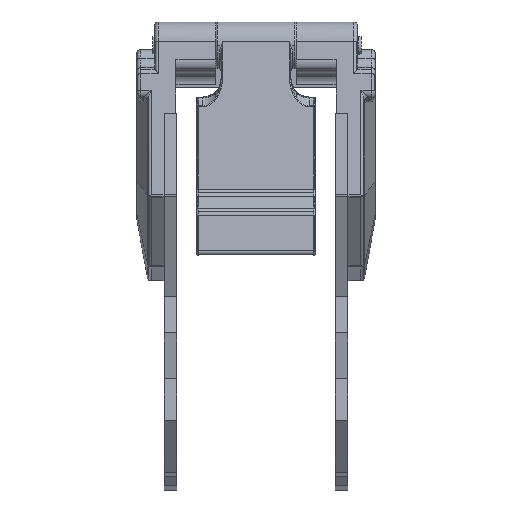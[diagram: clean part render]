
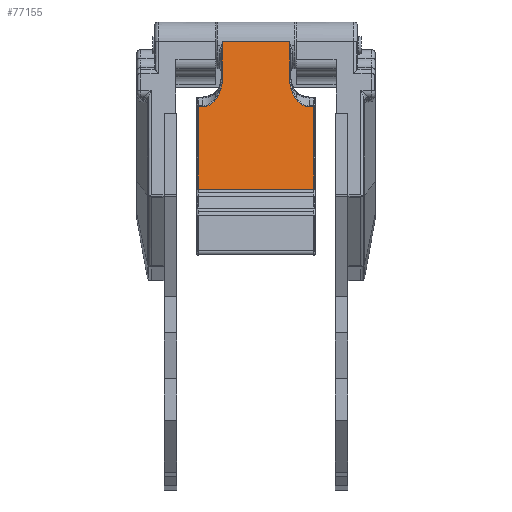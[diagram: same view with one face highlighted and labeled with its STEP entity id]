
A CAD part, front view. The second image highlights one B-rep face of the part: STEP entity #77155.
In plain terms, the highlighted planar face has unit normal (0, -0.987, 0.162).
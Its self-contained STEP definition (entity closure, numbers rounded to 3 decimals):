
#489 = CARTESIAN_POINT ( 'NONE',  ( -4.5, -34.516, 1.604 ) ) ;
#510 = DIRECTION ( 'NONE',  ( 1., 0., 0. ) ) ;
#675 = EDGE_LOOP ( 'NONE', ( #2841, #77125, #70111, #57606, #24850, #46229, #59086, #91514, #60438, #58242, #31376, #35807, #29028, #25186 ) ) ;
#2841 = ORIENTED_EDGE ( 'NONE', *, *, #21607, .F. ) ;
#3638 = VERTEX_POINT ( 'NONE', #64254 ) ;
#3716 = CARTESIAN_POINT ( 'NONE',  ( -7.75, -35.527, -4.549 ) ) ;
#4055 = VECTOR ( 'NONE', #37148, 1000. ) ;
#4266 =( BOUNDED_CURVE ( )  B_SPLINE_CURVE ( 3, ( #89128, #82838, #16637, #46125 ),
 .UNSPECIFIED., .F., .F. ) 
 B_SPLINE_CURVE_WITH_KNOTS ( ( 4, 4 ),
 ( 5.118, 6.283 ),
 .UNSPECIFIED. ) 
 CURVE ( )  GEOMETRIC_REPRESENTATION_ITEM ( )  RATIONAL_B_SPLINE_CURVE ( ( 1., 0.89, 0.89, 1. ) ) 
 REPRESENTATION_ITEM ( '' )  );
#6731 = CARTESIAN_POINT ( 'NONE',  ( -7.75, -37.343, -15.603 ) ) ;
#7438 = CARTESIAN_POINT ( 'NONE',  ( -4.5, -34.09, 4.194 ) ) ;
#7601 = LINE ( 'NONE', #36180, #4055 ) ;
#7674 = CARTESIAN_POINT ( 'NONE',  ( 7.75, -37.343, -15.603 ) ) ;
#8142 = CARTESIAN_POINT ( 'NONE',  ( -4.561, -35.042, -1.599 ) ) ;
#9812 = EDGE_CURVE ( 'NONE', #79085, #90151, #95703, .T. ) ;
#10990 = EDGE_CURVE ( 'NONE', #3638, #60754, #43027, .T. ) ;
#11374 = CARTESIAN_POINT ( 'NONE',  ( 5.158, -35.381, -3.663 ) ) ;
#12085 = CARTESIAN_POINT ( 'NONE',  ( -4.719, -35.138, -2.183 ) ) ;
#13073 = CARTESIAN_POINT ( 'NONE',  ( -4.5, -34.923, -0.874 ) ) ;
#14164 = EDGE_CURVE ( 'NONE', #90257, #23251, #57444, .T. ) ;
#14585 = CARTESIAN_POINT ( 'NONE',  ( 0., -34.09, 4.194 ) ) ;
#15996 = CARTESIAN_POINT ( 'NONE',  ( -4.526, -34.993, -1.299 ) ) ;
#16466 = CARTESIAN_POINT ( 'NONE',  ( 0., -37.343, -15.603 ) ) ;
#16637 = CARTESIAN_POINT ( 'NONE',  ( -6.087, -35.527, -4.549 ) ) ;
#16746 = VECTOR ( 'NONE', #37256, 1000. ) ;
#20127 = CARTESIAN_POINT ( 'NONE',  ( 4.719, -35.138, -2.183 ) ) ;
#20387 = CARTESIAN_POINT ( 'NONE',  ( 4.509, -34.969, -1.158 ) ) ;
#20861 = CARTESIAN_POINT ( 'NONE',  ( 4.526, -34.993, -1.299 ) ) ;
#21022 = EDGE_CURVE ( 'NONE', #23251, #58720, #51689, .T. ) ;
#21607 = EDGE_CURVE ( 'NONE', #87282, #79085, #61106, .T. ) ;
#21833 = CARTESIAN_POINT ( 'NONE',  ( 4.719, -35.138, -2.183 ) ) ;
#21970 = CARTESIAN_POINT ( 'NONE',  ( -4.5, -34.923, -0.874 ) ) ;
#22365 = LINE ( 'NONE', #489, #52923 ) ;
#23251 = VERTEX_POINT ( 'NONE', #94585 ) ;
#24456 = CARTESIAN_POINT ( 'NONE',  ( 7.75, -35.527, -4.549 ) ) ;
#24850 = ORIENTED_EDGE ( 'NONE', *, *, #63035, .F. ) ;
#25186 = ORIENTED_EDGE ( 'NONE', *, *, #9812, .F. ) ;
#25503 = VECTOR ( 'NONE', #38313, 1000. ) ;
#25605 = EDGE_CURVE ( 'NONE', #60754, #50754, #4266, .T. ) ;
#28287 = EDGE_CURVE ( 'NONE', #42604, #58660, #22365, .T. ) ;
#29022 = B_SPLINE_CURVE_WITH_KNOTS ( 'NONE', 3,
 ( #77402, #64305, #20387, #78354 ),
 .UNSPECIFIED., .F., .F.,
 ( 4, 4 ),
 ( 0., 0.043 ),
 .UNSPECIFIED. ) ;
#29028 = ORIENTED_EDGE ( 'NONE', *, *, #53734, .T. ) ;
#31376 = ORIENTED_EDGE ( 'NONE', *, *, #25605, .T. ) ;
#35807 = ORIENTED_EDGE ( 'NONE', *, *, #64120, .T. ) ;
#36180 = CARTESIAN_POINT ( 'NONE',  ( 0., -35.527, -4.549 ) ) ;
#36670 = VECTOR ( 'NONE', #510, 1000. ) ;
#37148 = DIRECTION ( 'NONE',  ( -1., 0., 0. ) ) ;
#37256 = DIRECTION ( 'NONE',  ( -1., 0., 0. ) ) ;
#38004 = AXIS2_PLACEMENT_3D ( 'NONE', #14585, #44117, #49401 ) ;
#38313 = DIRECTION ( 'NONE',  ( 0., -0.162, -0.987 ) ) ;
#40277 = CARTESIAN_POINT ( 'NONE',  ( -7.2, -35.527, -4.549 ) ) ;
#40511 = B_SPLINE_CURVE_WITH_KNOTS ( 'NONE', 3,
 ( #13073, #53137, #91702, #15996 ),
 .UNSPECIFIED., .F., .F.,
 ( 4, 4 ),
 ( 0., 0.043 ),
 .UNSPECIFIED. ) ;
#40923 = CARTESIAN_POINT ( 'NONE',  ( 6.087, -35.527, -4.549 ) ) ;
#42126 = CARTESIAN_POINT ( 'NONE',  ( 4.633, -35.09, -1.893 ) ) ;
#42604 = VERTEX_POINT ( 'NONE', #7438 ) ;
#43027 = B_SPLINE_CURVE_WITH_KNOTS ( 'NONE', 3,
 ( #74376, #8142, #95189, #73416 ),
 .UNSPECIFIED., .F., .F.,
 ( 4, 4 ),
 ( 0., 0.092 ),
 .UNSPECIFIED. ) ;
#44117 = DIRECTION ( 'NONE',  ( 0., -0.987, 0.162 ) ) ;
#45107 = CARTESIAN_POINT ( 'NONE',  ( 4.5, -34.516, 1.604 ) ) ;
#45342 = EDGE_CURVE ( 'NONE', #42604, #88972, #56169, .T. ) ;
#45519 = DIRECTION ( 'NONE',  ( 0., -0.162, -0.987 ) ) ;
#46125 = CARTESIAN_POINT ( 'NONE',  ( -7.2, -35.527, -4.549 ) ) ;
#46229 = ORIENTED_EDGE ( 'NONE', *, *, #61641, .F. ) ;
#46812 = CARTESIAN_POINT ( 'NONE',  ( -7.75, -35.599, -4.988 ) ) ;
#46869 = VECTOR ( 'NONE', #76250, 1000. ) ;
#47289 = LINE ( 'NONE', #46812, #46869 ) ;
#49401 = DIRECTION ( 'NONE',  ( -1., 0., 0. ) ) ;
#50522 = CARTESIAN_POINT ( 'NONE',  ( 4.5, -34.09, 4.194 ) ) ;
#50754 = VERTEX_POINT ( 'NONE', #40277 ) ;
#51689 =( BOUNDED_CURVE ( )  B_SPLINE_CURVE ( 3, ( #20127, #11374, #40923, #93075 ),
 .UNSPECIFIED., .F., .T. ) 
 B_SPLINE_CURVE_WITH_KNOTS ( ( 4, 4 ),
 ( 5.118, 6.283 ),
 .UNSPECIFIED. ) 
 CURVE ( )  GEOMETRIC_REPRESENTATION_ITEM ( )  RATIONAL_B_SPLINE_CURVE ( ( 1., 0.89, 0.89, 1. ) ) 
 REPRESENTATION_ITEM ( '' )  );
#51706 = CARTESIAN_POINT ( 'NONE',  ( 4.526, -34.993, -1.299 ) ) ;
#52923 = VECTOR ( 'NONE', #45519, 1000. ) ;
#53137 = CARTESIAN_POINT ( 'NONE',  ( -4.5, -34.946, -1.016 ) ) ;
#53734 = EDGE_CURVE ( 'NONE', #76527, #90151, #47289, .T. ) ;
#53938 = DIRECTION ( 'NONE',  ( 0., -0.162, -0.987 ) ) ;
#54201 = CARTESIAN_POINT ( 'NONE',  ( 7.2, -35.527, -4.549 ) ) ;
#55844 = VECTOR ( 'NONE', #95657, 1000. ) ;
#56169 = LINE ( 'NONE', #88035, #36670 ) ;
#57444 = B_SPLINE_CURVE_WITH_KNOTS ( 'NONE', 3,
 ( #20861, #72954, #42126, #21833 ),
 .UNSPECIFIED., .F., .F.,
 ( 4, 4 ),
 ( 0., 0.092 ),
 .UNSPECIFIED. ) ;
#57606 = ORIENTED_EDGE ( 'NONE', *, *, #14164, .F. ) ;
#58242 = ORIENTED_EDGE ( 'NONE', *, *, #10990, .T. ) ;
#58660 = VERTEX_POINT ( 'NONE', #21970 ) ;
#58720 = VERTEX_POINT ( 'NONE', #54201 ) ;
#59086 = ORIENTED_EDGE ( 'NONE', *, *, #45342, .F. ) ;
#59485 = LINE ( 'NONE', #45107, #25503 ) ;
#60438 = ORIENTED_EDGE ( 'NONE', *, *, #88740, .T. ) ;
#60754 = VERTEX_POINT ( 'NONE', #12085 ) ;
#61106 = LINE ( 'NONE', #68939, #84276 ) ;
#61641 = EDGE_CURVE ( 'NONE', #88972, #76512, #59485, .T. ) ;
#63035 = EDGE_CURVE ( 'NONE', #76512, #90257, #29022, .T. ) ;
#64120 = EDGE_CURVE ( 'NONE', #50754, #76527, #7601, .T. ) ;
#64254 = CARTESIAN_POINT ( 'NONE',  ( -4.526, -34.993, -1.299 ) ) ;
#64305 = CARTESIAN_POINT ( 'NONE',  ( 4.5, -34.946, -1.016 ) ) ;
#64806 = FACE_OUTER_BOUND ( 'NONE', #675, .T. ) ;
#66152 = CARTESIAN_POINT ( 'NONE',  ( 0., -35.527, -4.549 ) ) ;
#68939 = CARTESIAN_POINT ( 'NONE',  ( 7.75, -35.599, -4.988 ) ) ;
#69155 = LINE ( 'NONE', #66152, #55844 ) ;
#70111 = ORIENTED_EDGE ( 'NONE', *, *, #21022, .F. ) ;
#70913 = CARTESIAN_POINT ( 'NONE',  ( 4.5, -34.923, -0.874 ) ) ;
#72954 = CARTESIAN_POINT ( 'NONE',  ( 4.561, -35.042, -1.599 ) ) ;
#73416 = CARTESIAN_POINT ( 'NONE',  ( -4.719, -35.138, -2.183 ) ) ;
#74376 = CARTESIAN_POINT ( 'NONE',  ( -4.526, -34.993, -1.299 ) ) ;
#76250 = DIRECTION ( 'NONE',  ( 0., -0.162, -0.987 ) ) ;
#76512 = VERTEX_POINT ( 'NONE', #70913 ) ;
#76527 = VERTEX_POINT ( 'NONE', #3716 ) ;
#77125 = ORIENTED_EDGE ( 'NONE', *, *, #82227, .F. ) ;
#77155 = ADVANCED_FACE ( 'NONE', ( #64806 ), #80792, .T. ) ;
#77402 = CARTESIAN_POINT ( 'NONE',  ( 4.5, -34.923, -0.874 ) ) ;
#78354 = CARTESIAN_POINT ( 'NONE',  ( 4.526, -34.993, -1.299 ) ) ;
#79085 = VERTEX_POINT ( 'NONE', #7674 ) ;
#80792 = PLANE ( 'NONE',  #38004 ) ;
#82227 = EDGE_CURVE ( 'NONE', #58720, #87282, #69155, .T. ) ;
#82838 = CARTESIAN_POINT ( 'NONE',  ( -5.158, -35.381, -3.663 ) ) ;
#84276 = VECTOR ( 'NONE', #53938, 1000. ) ;
#87282 = VERTEX_POINT ( 'NONE', #24456 ) ;
#88035 = CARTESIAN_POINT ( 'NONE',  ( 0., -34.09, 4.194 ) ) ;
#88740 = EDGE_CURVE ( 'NONE', #58660, #3638, #40511, .T. ) ;
#88972 = VERTEX_POINT ( 'NONE', #50522 ) ;
#89128 = CARTESIAN_POINT ( 'NONE',  ( -4.719, -35.138, -2.183 ) ) ;
#90151 = VERTEX_POINT ( 'NONE', #6731 ) ;
#90257 = VERTEX_POINT ( 'NONE', #51706 ) ;
#91514 = ORIENTED_EDGE ( 'NONE', *, *, #28287, .T. ) ;
#91702 = CARTESIAN_POINT ( 'NONE',  ( -4.509, -34.969, -1.158 ) ) ;
#93075 = CARTESIAN_POINT ( 'NONE',  ( 7.2, -35.527, -4.549 ) ) ;
#94585 = CARTESIAN_POINT ( 'NONE',  ( 4.719, -35.138, -2.183 ) ) ;
#95189 = CARTESIAN_POINT ( 'NONE',  ( -4.633, -35.09, -1.893 ) ) ;
#95657 = DIRECTION ( 'NONE',  ( 1., 0., 0. ) ) ;
#95703 = LINE ( 'NONE', #16466, #16746 ) ;
